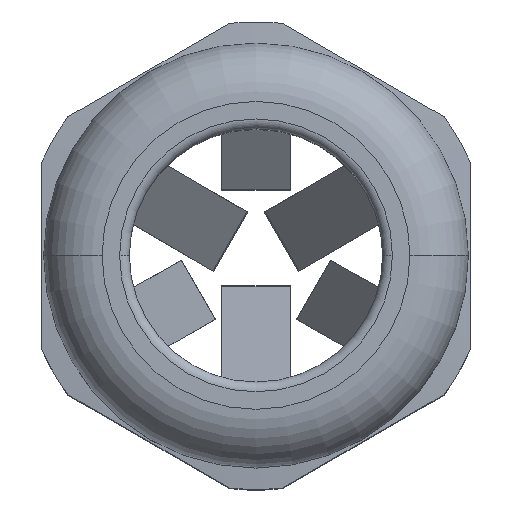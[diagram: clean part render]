
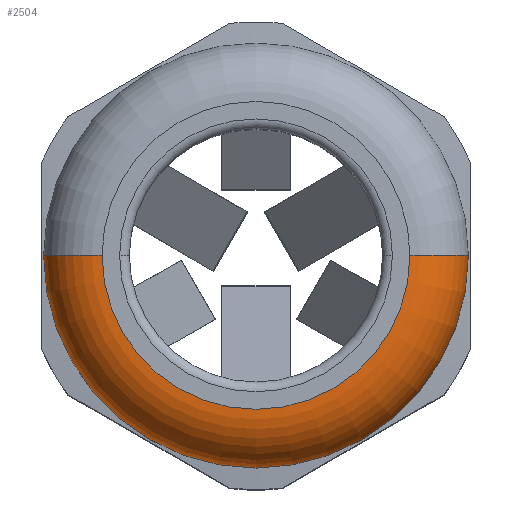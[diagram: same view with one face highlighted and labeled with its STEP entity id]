
A CAD part, top view. The second image highlights one B-rep face of the part: STEP entity #2504.
In plain terms, the highlighted toroidal (fillet/blend) face has major radius 7.9 mm and minor radius 3 mm.
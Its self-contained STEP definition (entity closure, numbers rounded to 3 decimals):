
#989 = DIRECTION ( 'NONE',  ( 0., 0., -1. ) ) ;
#990 = DIRECTION ( 'NONE',  ( 0., -1., 0. ) ) ;
#991 = CARTESIAN_POINT ( 'NONE',  ( -7.9, 0., 30.5 ) ) ;
#992 = AXIS2_PLACEMENT_3D ( 'NONE', #991, #990, #989 ) ;
#1107 = CARTESIAN_POINT ( 'NONE',  ( -10.9, 0., 30.5 ) ) ;
#1111 = CIRCLE ( 'NONE', #992, 3. ) ;
#1121 = DIRECTION ( 'NONE',  ( -1., 0., 0. ) ) ;
#1122 = DIRECTION ( 'NONE',  ( 0., 1., 0. ) ) ;
#1123 = AXIS2_PLACEMENT_3D ( 'NONE', #1176, #1122, #1121 ) ;
#1124 = CIRCLE ( 'NONE', #1123, 3. ) ;
#1146 = CARTESIAN_POINT ( 'NONE',  ( 7.9, 0., 33.5 ) ) ;
#1147 = CARTESIAN_POINT ( 'NONE',  ( -7.9, 0., 33.5 ) ) ;
#1176 = CARTESIAN_POINT ( 'NONE',  ( 7.9, 0., 30.5 ) ) ;
#1221 = CARTESIAN_POINT ( 'NONE',  ( 10.9, 0., 30.5 ) ) ;
#2504 = ADVANCED_FACE ( 'NONE', ( #4829 ), #4782, .T. ) ;
#2508 = ORIENTED_EDGE ( 'NONE', *, *, #2509, .T. ) ;
#2509 = EDGE_CURVE ( 'NONE', #4047, #4044, #4827, .T. ) ;
#2512 = EDGE_LOOP ( 'NONE', ( #2551, #2508, #2526, #2527 ) ) ;
#2515 = EDGE_CURVE ( 'NONE', #4083, #3997, #4764, .T. ) ;
#2526 = ORIENTED_EDGE ( 'NONE', *, *, #3987, .T. ) ;
#2527 = ORIENTED_EDGE ( 'NONE', *, *, #2515, .F. ) ;
#2551 = ORIENTED_EDGE ( 'NONE', *, *, #4058, .F. ) ;
#3987 = EDGE_CURVE ( 'NONE', #4044, #3997, #1111, .T. ) ;
#3997 = VERTEX_POINT ( 'NONE', #1107 ) ;
#4044 = VERTEX_POINT ( 'NONE', #1147 ) ;
#4047 = VERTEX_POINT ( 'NONE', #1146 ) ;
#4058 = EDGE_CURVE ( 'NONE', #4047, #4083, #1124, .T. ) ;
#4083 = VERTEX_POINT ( 'NONE', #1221 ) ;
#4735 = AXIS2_PLACEMENT_3D ( 'NONE', #4821, #4797, #4828 ) ;
#4763 = AXIS2_PLACEMENT_3D ( 'NONE', #4798, #4771, #4770 ) ;
#4764 = CIRCLE ( 'NONE', #4763, 10.9 ) ;
#4770 = DIRECTION ( 'NONE',  ( -1., 0., 0. ) ) ;
#4771 = DIRECTION ( 'NONE',  ( 0., 0., -1. ) ) ;
#4772 = DIRECTION ( 'NONE',  ( -1., 0., 0. ) ) ;
#4775 = CARTESIAN_POINT ( 'NONE',  ( 0., 0., 33.5 ) ) ;
#4782 = TOROIDAL_SURFACE ( 'NONE', #4735, 7.9, 3. ) ;
#4787 = AXIS2_PLACEMENT_3D ( 'NONE', #4775, #4792, #4772 ) ;
#4792 = DIRECTION ( 'NONE',  ( 0., 0., -1. ) ) ;
#4797 = DIRECTION ( 'NONE',  ( 0., 0., -1. ) ) ;
#4798 = CARTESIAN_POINT ( 'NONE',  ( 0., 0., 30.5 ) ) ;
#4821 = CARTESIAN_POINT ( 'NONE',  ( 0., 0., 30.5 ) ) ;
#4827 = CIRCLE ( 'NONE', #4787, 7.9 ) ;
#4828 = DIRECTION ( 'NONE',  ( -1., 0., 0. ) ) ;
#4829 = FACE_OUTER_BOUND ( 'NONE', #2512, .T. ) ;
